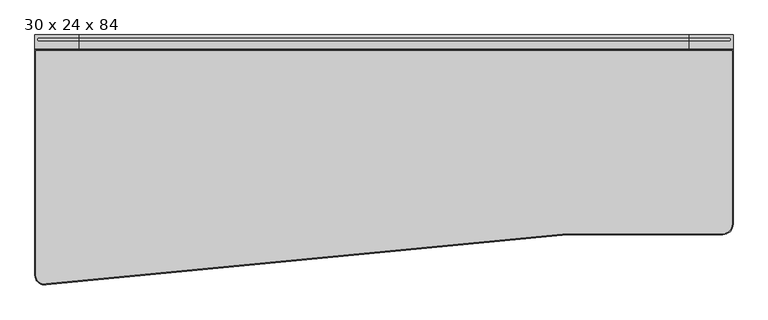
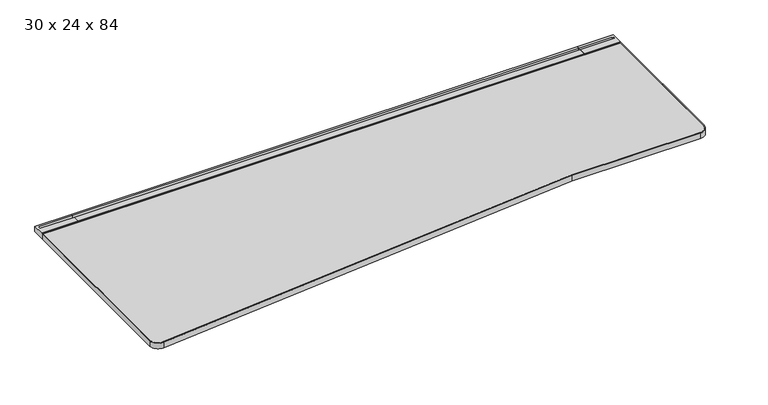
"""IFC4 building model written with IfcOpenShell, lengths in millimetres: furniture geometry, Steelcase - C Scape - Desking - Left Hand Transition : 30 x 24 x 84."""

from ifc_helpers import new_model, si_unit, point, frame, frame_2d, origin, place, context, project, spatial, polyline, circle_curve, trimmed, segment, composite_curve, outline, extrude, faceted_brep, source, transform, mapped, element, save
from ifc_brep_helpers import plane_surface, cylinder_surface, revolved_surface, advanced_brep


def furniture_30_x_24_x_84_b591fa1f(model_context):
    return source(origin(), model_context, "Body", "SolidModel", [
        advanced_brep(
        [(134.6072876, -45.3135132, 703.3768), (134.6072876, -4.0331902, 703.3768), (134.6072876, -3.2278472, 705.1038636), (134.6072876, 0.0, 705.1038636), (134.6072876, 0.0, 725.932), (134.6072876, -8.5111084, 725.932), (134.6072876, -8.5111084, 713.486), (134.6072876, -19.3290527, 713.486), (134.6072876, -19.3290527, 725.932), (134.6072876, -42.7750923, 725.932), (134.6072876, -42.7750923, 722.4268341), (134.6072876, -45.3135132, 722.4268341), (1.5875, -45.3135132, 703.3768), (1.5875, -45.3135132, 722.4268341), (1.5875, -42.7750923, 722.4268341), (1.5875, -42.7750923, 725.932), (1.5875, 0.0, 725.932), (1.5875, 0.0, 705.1038636), (1.5875, -3.2278472, 705.1038636), (1.5875, -4.0331902, 703.3768), (13.3495728, -19.3290527, 725.932), (13.3495728, -8.5111084, 725.932), (13.3495728, -8.5111084, 713.486), (13.3495728, -19.3290527, 713.486)],
        [
            (0, 1),
            (1, 2),
            (2, 3),
            (3, 4),
            (4, 5),
            (5, 6),
            (6, 7),
            (7, 8),
            (8, 9),
            (9, 10),
            (10, 11),
            (11, 0),
            (12, 13),
            (13, 14),
            (14, 15),
            (15, 16),
            (16, 17),
            (17, 18),
            (18, 19),
            (19, 12),
            (0, 12),
            (19, 1),
            (18, 2),
            (17, 3),
            (16, 4),
            (15, 9),
            (8, 20),
            (20, 21, circle_curve(frame((13.3495728, -13.9200806, 725.932), z_axis=(0.0, 0.0, -1.0), x_axis=(1.0, 0.0, 0.0)), 5.4089722)),
            (21, 5),
            (14, 10),
            (13, 11),
            (6, 22),
            (22, 23, circle_curve(frame((13.3495728, -13.9200806, 713.486), z_axis=(0.0, 0.0, 1.0), x_axis=(1.0, 0.0, 0.0)), 5.4089722)),
            (23, 7),
            (21, 22),
            (20, 23),
        ],
        [
            plane_surface(frame((134.6072876, -45.3135132, 703.3768), z_axis=(1.0, 0.0, 0.0), x_axis=(0.0, 1.0, 0.0))),
            plane_surface(frame((1.5875, -45.3135132, 703.3768), z_axis=(-1.0, 0.0, 0.0), x_axis=(0.0, -1.0, 0.0))),
            plane_surface(frame((134.6072876, -45.3135132, 703.3768), z_axis=(0.0, 0.0, -1.0), x_axis=(-1.0, 0.0, 0.0))),
            plane_surface(frame((134.6072876, -4.0331902, 703.3768), z_axis=(0.0, 0.9063077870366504, -0.4226182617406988), x_axis=(-1.0, 0.0, 0.0))),
            plane_surface(frame((134.6072876, -3.2278472, 705.1038636), z_axis=(0.0, 0.0, -1.0), x_axis=(-1.0, 0.0, 0.0))),
            plane_surface(frame((134.6072876, 0.0, 705.1038636), z_axis=(0.0, 1.0, 0.0), x_axis=(-1.0, 0.0, 0.0))),
            plane_surface(frame((134.6072876, 0.0, 725.932), z_axis=(0.0, 0.0, 1.0), x_axis=(-1.0, 0.0, 0.0))),
            plane_surface(frame((134.6072876, -42.7750923, 725.932), z_axis=(0.0, -1.0, 0.0), x_axis=(-1.0, 0.0, 0.0))),
            plane_surface(frame((134.6072876, -42.7750923, 722.4268341), z_axis=(0.0, 0.0, 1.0), x_axis=(-1.0, 0.0, 0.0))),
            plane_surface(frame((134.6072876, -45.3135132, 722.4268341), z_axis=(0.0, -1.0, 0.0), x_axis=(-1.0, 0.0, 0.0))),
            plane_surface(frame((13.3495728, -8.5111084, 713.486), z_axis=(0.0, 0.0, 1.0), x_axis=(1.0, 0.0, 0.0))),
            plane_surface(frame((134.6072876, -8.5111084, 731.2180541), z_axis=(0.0, -1.0, 0.0), x_axis=(0.0, 0.0, -1.0))),
            revolved_surface(polyline([(18.758545, -13.9200806, 725.932), (18.758545, -13.9200806, 713.486)]), (13.3495728, -13.9200806, 713.486), (0.0, 0.0, 1.0)),
            plane_surface(frame((13.3495728, -19.3290527, 731.2180541), z_axis=(0.0, 1.0, 0.0), x_axis=(0.0, 0.0, -1.0))),
        ],
        [
            (0, [[1, 2, 3, 4, 5, 6, 7, 8, 9, 10, 11, 12]]),
            (1, [[13, 14, 15, 16, 17, 18, 19, 20]]),
            (2, [[-1, 21, -20, 22]]),
            (3, [[-2, -22, -19, 23]]),
            (4, [[-3, -23, -18, 24]]),
            (5, [[-4, -24, -17, 25]]),
            (6, [[-16, 26, -9, 27, 28, 29, -5, -25]]),
            (7, [[-10, -26, -15, 30]]),
            (8, [[-11, -30, -14, 31]]),
            (9, [[-12, -31, -13, -21]]),
            (10, [[32, 33, 34, -7]]),
            (11, [[-32, -6, -29, 35]]),
            (12, [[-33, -35, -28, 36]]),
            (13, [[-34, -36, -27, -8]]),
        ],
    ),
        faceted_brep([(20.6382632, -565.0752923, 700.7093833), (34.9133728, -565.0752923, 693.4200291), (116.3525879, -565.0752923, 693.4200291), (118.9731301, -565.0752923, 679.3263935), (134.6072876, -565.0752923, 679.3263935), (134.6072876, -565.0752923, 703.3768), (20.6382632, -565.0752923, 703.3768), (20.6382632, -4.0331902, 700.7093833), (20.6382632, -4.0331902, 703.3768), (134.6072876, -4.0331902, 703.3768), (134.6072876, -4.0331902, 629.3866), (128.2588347, -4.0331902, 629.3866), (116.3525879, -4.0331902, 693.4200291), (34.9133728, -4.0331902, 693.4200291), (128.2588347, -364.1172546, 629.3866), (121.1384051, -376.5599397, 667.6812472), (134.6072876, -364.1172546, 629.3866), (134.6072876, -376.5599397, 667.6812472)], [[[0, 1, 2, 3, 4, 5, 6]], [[7, 8, 9, 10, 11, 12, 13]], [[1, 0, 7, 13]], [[2, 1, 13, 12]], [[12, 11, 14, 15, 3, 2]], [[11, 10, 16, 14]], [[10, 9, 5, 4, 17, 16]], [[6, 5, 9, 8]], [[0, 6, 8, 7]], [[15, 17, 4, 3]], [[17, 15, 14, 16]]]),
        extrude(outline(composite_curve([segment(polyline([(-293.5216187, 657.3775839), (-559.0022133, 680.1371551)]), True, "CONTINUOUS"), segment(trimmed(circle_curve(frame_2d((-558.7581271, 682.9843154)), 2.8576039), [point((-559.0022133, 680.1371551))], [point((-561.5383043, 682.3236226))], False, "CARTESIAN"), True, "CONTINUOUS"), segment(polyline([(-561.5383043, 682.3236226), (-566.0887542, 701.4717905), (-557.8334441, 701.4717905), (-557.8334441, 703.3768), (-442.6683806, 703.3768), (-442.6683806, 696.3917953), (-318.2108611, 696.3917953), (-318.2108611, 703.3768), (-293.5216187, 703.3768), (-293.5216187, 657.3775839)]), True, "CONTINUOUS")], self_intersect=False)), frame((1030.224, 0.0, 0.0), z_axis=(1.0, 0.0, 0.0), x_axis=(0.0, 1.0, 0.0)), (0.0, 0.0, 1.0), 73.152),
        advanced_brep(
        [(1998.9927124, -45.3135132, 703.3768), (1998.9927124, -45.3135132, 722.4268341), (1998.9927124, -42.7750923, 722.4268341), (1998.9927124, -42.7750923, 725.932), (1998.9927124, -19.3290527, 725.932), (1998.9927124, -19.3290527, 713.486), (1998.9927124, -8.5111084, 713.486), (1998.9927124, -8.5111084, 725.932), (1998.9927124, 0.0, 725.932), (1998.9927124, 0.0, 705.1038636), (1998.9927124, -3.2278472, 705.1038636), (1998.9927124, -4.0331902, 703.3768), (2132.0125, -45.3135132, 703.3768), (2132.0125, -4.0331902, 703.3768), (2132.0125, -3.2278472, 705.1038636), (2132.0125, 0.0, 705.1038636), (2132.0125, 0.0, 725.932), (2132.0125, -42.7750923, 725.932), (2132.0125, -42.7750923, 722.4268341), (2132.0125, -45.3135132, 722.4268341), (2120.2504272, -8.5111084, 725.932), (2120.2504272, -19.3290527, 725.932), (2120.2504272, -19.3290527, 713.486), (2120.2504272, -8.5111084, 713.486)],
        [
            (0, 1),
            (1, 2),
            (2, 3),
            (3, 4),
            (4, 5),
            (5, 6),
            (6, 7),
            (7, 8),
            (8, 9),
            (9, 10),
            (10, 11),
            (11, 0),
            (12, 13),
            (13, 14),
            (14, 15),
            (15, 16),
            (16, 17),
            (17, 18),
            (18, 19),
            (19, 12),
            (11, 13),
            (12, 0),
            (10, 14),
            (9, 15),
            (8, 16),
            (7, 20),
            (20, 21, circle_curve(frame((2120.2504272, -13.9200806, 725.932), z_axis=(0.0, 0.0, -1.0), x_axis=(-1.0, 0.0, 0.0)), 5.4089722)),
            (21, 4),
            (3, 17),
            (2, 18),
            (1, 19),
            (5, 22),
            (22, 23, circle_curve(frame((2120.2504272, -13.9200806, 713.486), z_axis=(0.0, 0.0, 1.0), x_axis=(-1.0, 0.0, 0.0)), 5.4089722)),
            (23, 6),
            (23, 20),
            (22, 21),
        ],
        [
            plane_surface(frame((1998.9927124, -45.3135132, 703.3768), z_axis=(-1.0, 0.0, 0.0), x_axis=(0.0, 1.0, 0.0))),
            plane_surface(frame((2132.0125, -45.3135132, 703.3768), z_axis=(1.0, 0.0, 0.0), x_axis=(0.0, -1.0, 0.0))),
            plane_surface(frame((1998.9927124, -45.3135132, 703.3768), z_axis=(0.0, 0.0, -1.0), x_axis=(1.0, 0.0, 0.0))),
            plane_surface(frame((1998.9927124, -4.0331902, 703.3768), z_axis=(0.0, 0.9063077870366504, -0.4226182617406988), x_axis=(1.0, 0.0, 0.0))),
            plane_surface(frame((1998.9927124, -3.2278472, 705.1038636), z_axis=(0.0, 0.0, -1.0), x_axis=(1.0, 0.0, 0.0))),
            plane_surface(frame((1998.9927124, 0.0, 705.1038636), z_axis=(0.0, 1.0, 0.0), x_axis=(1.0, 0.0, 0.0))),
            plane_surface(frame((1998.9927124, 0.0, 725.932), z_axis=(0.0, 0.0, 1.0), x_axis=(1.0, 0.0, 0.0))),
            plane_surface(frame((1998.9927124, -42.7750923, 725.932), z_axis=(0.0, -1.0, 0.0), x_axis=(1.0, 0.0, 0.0))),
            plane_surface(frame((1998.9927124, -42.7750923, 722.4268341), z_axis=(0.0, 0.0, 1.0), x_axis=(1.0, 0.0, 0.0))),
            plane_surface(frame((1998.9927124, -45.3135132, 722.4268341), z_axis=(0.0, -1.0, 0.0), x_axis=(1.0, 0.0, 0.0))),
            plane_surface(frame((2120.2504272, -8.5111084, 713.486), z_axis=(0.0, 0.0, 1.0), x_axis=(-1.0, 0.0, 0.0))),
            plane_surface(frame((1998.9927124, -8.5111084, 731.2180541), z_axis=(0.0, -1.0, 0.0), x_axis=(0.0, 0.0, -1.0))),
            revolved_surface(polyline([(2114.841455, -13.9200806, 725.932), (2114.841455, -13.9200806, 713.486)]), (2120.2504272, -13.9200806, 713.486), (0.0, 0.0, 1.0)),
            plane_surface(frame((2120.2504272, -19.3290527, 731.2180541), z_axis=(0.0, 1.0, 0.0), x_axis=(0.0, 0.0, -1.0))),
        ],
        [
            (0, [[1, 2, 3, 4, 5, 6, 7, 8, 9, 10, 11, 12]]),
            (1, [[13, 14, 15, 16, 17, 18, 19, 20]]),
            (2, [[21, -13, 22, -12]]),
            (3, [[23, -14, -21, -11]]),
            (4, [[24, -15, -23, -10]]),
            (5, [[25, -16, -24, -9]]),
            (6, [[-25, -8, 26, 27, 28, -4, 29, -17]]),
            (7, [[30, -18, -29, -3]]),
            (8, [[31, -19, -30, -2]]),
            (9, [[-22, -20, -31, -1]]),
            (10, [[-6, 32, 33, 34]]),
            (11, [[35, -26, -7, -34]]),
            (12, [[36, -27, -35, -33]]),
            (13, [[-5, -28, -36, -32]]),
        ],
    ),
        faceted_brep([(2112.9617368, -565.0752923, 700.7093833), (2112.9617368, -565.0752923, 703.3768), (1998.9927124, -565.0752923, 703.3768), (1998.9927124, -565.0752923, 679.3263935), (2014.6268699, -565.0752923, 679.3263935), (2017.2474121, -565.0752923, 693.4200291), (2098.6866272, -565.0752923, 693.4200291), (2112.9617368, -4.0331902, 700.7093833), (2098.6866272, -4.0331902, 693.4200291), (2017.2474121, -4.0331902, 693.4200291), (2005.3411653, -4.0331902, 629.3866), (1998.9927124, -4.0331902, 629.3866), (1998.9927124, -4.0331902, 703.3768), (2112.9617368, -4.0331902, 703.3768), (2012.4615949, -376.5599397, 667.6812472), (2005.3411653, -364.1172546, 629.3866), (1998.9927124, -364.1172546, 629.3866), (1998.9927124, -376.5599397, 667.6812472)], [[[0, 1, 2, 3, 4, 5, 6]], [[7, 8, 9, 10, 11, 12, 13]], [[6, 8, 7, 0]], [[5, 9, 8, 6]], [[9, 5, 4, 14, 15, 10]], [[10, 15, 16, 11]], [[11, 16, 17, 3, 2, 12]], [[1, 13, 12, 2]], [[0, 7, 13, 1]], [[14, 4, 3, 17]], [[17, 16, 15, 14]]]),
        extrude(outline(polyline([(-8.5111084, 725.932), (0.0, 725.932), (0.0, 705.1038636), (-3.2278472, 705.1038636), (-4.0331902, 703.3768), (-45.3135132, 703.3768), (-45.3135132, 722.4268341), (-42.7750923, 722.4268341), (-42.7750923, 725.932), (-19.3290527, 725.932), (-19.3290527, 713.486), (-8.5111084, 713.486), (-8.5111084, 725.932)])), frame((134.6072876, 0.0, 0.0), z_axis=(1.0, 0.0, 0.0), x_axis=(0.0, 1.0, 0.0)), (0.0, 0.0, 1.0), 1864.3854248),
        extrude(outline(polyline([(1998.9927124, -4.0331902), (1998.9927124, -293.5216187), (134.6072876, -293.5216187), (134.6072876, -4.0331902), (1998.9927124, -4.0331902)])), frame((0.0, 0.0, 629.3866), z_axis=(0.0, 0.0, 1.0), x_axis=(1.0, 0.0, 0.0)), (0.0, 0.0, 1.0), 73.9902),
        advanced_brep(
        [(2128.9645, -48.3660689, 723.9), (4.6355, -48.3660689, 723.9), (4.6355, -734.677348, 723.9), (33.9511745, -759.7737122, 723.9), (1625.5997595, -606.5490234, 723.9), (2100.2625, -606.5490234, 723.9), (2128.9615234, -577.85, 723.9), (2128.9645, -48.3660689, 703.3768), (2128.9645, -577.85, 703.3768), (2100.2625, -606.5490234, 703.3768), (1625.5997595, -606.5490234, 703.3768), (33.9511745, -759.7737122, 703.3768), (4.6355, -734.677348, 703.3768), (4.6355, -48.3660689, 703.3768)],
        [
            (0, 1),
            (1, 2),
            (2, 3, circle_curve(frame((30.0355, -734.677348, 723.9), z_axis=(0.0, 0.0, 1.0), x_axis=(-1.0, 0.0, 0.0)), 25.4)),
            (3, 4),
            (4, 5),
            (5, 6, circle_curve(frame((2100.2625, -577.85, 723.9), z_axis=(0.0, 0.0, 1.0), x_axis=(-1.0, 0.0, 0.0)), 28.6990234)),
            (6, 0),
            (7, 8),
            (8, 9, circle_curve(frame((2100.2625, -577.85, 703.3768), z_axis=(0.0, 0.0, -1.0), x_axis=(-1.0, 0.0, 0.0)), 28.6990234)),
            (9, 10),
            (10, 11),
            (11, 12, circle_curve(frame((30.0355, -734.677348, 703.3768), z_axis=(0.0, 0.0, -1.0), x_axis=(-1.0, 0.0, 0.0)), 25.4)),
            (12, 13),
            (13, 7),
            (0, 7),
            (13, 1),
            (12, 2),
            (11, 3),
            (10, 4),
            (9, 5),
            (8, 6),
        ],
        [
            plane_surface(frame((4.6355, -48.3660689, 723.9), z_axis=(0.0, 0.0, 1.0), x_axis=(-1.0, 0.0, 0.0))),
            plane_surface(frame((4.6355, -48.3660689, 703.3768), z_axis=(0.0, 0.0, -1.0), x_axis=(1.0, 0.0, 0.0))),
            plane_surface(frame((2128.9645, -48.3660689, 723.9), z_axis=(0.0, 1.0, 0.0), x_axis=(0.0, 0.0, -1.0))),
            plane_surface(frame((4.6355, -48.3660689, 723.9), z_axis=(-1.0, 0.0, 0.0), x_axis=(0.0, 0.0, -1.0))),
            cylinder_surface(frame((30.0355, -734.677348, 703.3768), z_axis=(0.0, 0.0, 1.0), x_axis=(-1.0, 0.0, 0.0)), 25.4),
            plane_surface(frame((33.9511745, -759.7737122, 723.9), z_axis=(0.0958249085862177, -0.9953982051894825, 0.0), x_axis=(0.0, 0.0, -1.0))),
            plane_surface(frame((1625.5997595, -606.5490234, 723.9), z_axis=(0.0, -1.0, 0.0), x_axis=(0.0, 0.0, -1.0))),
            cylinder_surface(frame((2100.2625, -577.85, 703.3768), z_axis=(0.0, 0.0, 1.0), x_axis=(-1.0, 0.0, 0.0)), 28.6990234),
            plane_surface(frame((2128.9645, -577.85, 723.9), z_axis=(1.0, 0.0, 0.0), x_axis=(0.0, 0.0, -1.0))),
        ],
        [
            (0, [[1, 2, 3, 4, 5, 6, 7]]),
            (1, [[8, 9, 10, 11, 12, 13, 14]]),
            (2, [[-1, 15, -14, 16]]),
            (3, [[-2, -16, -13, 17]]),
            (4, [[-3, -17, -12, 18]]),
            (5, [[-4, -18, -11, 19]]),
            (6, [[-5, -19, -10, 20]]),
            (7, [[-6, -20, -9, 21]]),
            (8, [[-7, -21, -8, -15]]),
        ],
    ),
        extrude(outline(composite_curve([segment(polyline([(1625.6, -609.6), (35.7608132, -762.5423763)]), True, "CONTINUOUS"), segment(trimmed(circle_curve(frame_2d((31.1963073, -733.2875177)), 29.6088073), [point((35.7608132, -762.5423763))], [point((1.5875, -733.2875177))], False, "CARTESIAN"), True, "CONTINUOUS"), segment(polyline([(1.5875, -733.2875177), (1.5875, -45.3150923), (2132.0125, -45.3150923), (2132.0125, -577.85)]), True, "CONTINUOUS"), segment(trimmed(circle_curve(frame_2d((2100.2625, -577.85)), 31.75), [point((2132.0125, -577.85))], [point((2100.2625, -609.6))], False, "CARTESIAN"), True, "CONTINUOUS"), segment(polyline([(2100.2625, -609.6), (1625.6, -609.6)]), True, "CONTINUOUS")], self_intersect=False), holes=[composite_curve([segment(polyline([(4.6384766, -48.3660689), (4.6384766, -733.2875177)]), True, "CONTINUOUS"), segment(trimmed(circle_curve(frame_2d((31.1963073, -733.2875177)), 26.5578307), [point((4.6384766, -733.2875177))], [point((35.3768026, -759.5142566))], True, "CARTESIAN"), True, "CONTINUOUS"), segment(polyline([(35.3768026, -759.5142566), (1625.4535861, -606.5490234), (2100.2625, -606.5490234)]), True, "CONTINUOUS"), segment(trimmed(circle_curve(frame_2d((2100.2625, -577.85)), 28.6990234), [point((2100.2625, -606.5490234))], [point((2128.9615234, -577.85))], True, "CARTESIAN"), True, "CONTINUOUS"), segment(polyline([(2128.9615234, -577.85), (2128.9615234, -48.3660689), (4.6384766, -48.3660689)]), True, "CONTINUOUS")], self_intersect=False)]), frame((0.0, 0.0, 703.3768), z_axis=(0.0, 0.0, 1.0), x_axis=(1.0, 0.0, 0.0)), (0.0, 0.0, 1.0), 20.5232),
    ])


if __name__ == "__main__":
    model = new_model("IFC4")
    model_context = context("Model", 3, world=origin())
    ifc_project = project(units=[si_unit("LENGTHUNIT", "METRE", prefix="MILLI")], contexts=[model_context])
    site = spatial("IfcSite", under=ifc_project)
    building = spatial("IfcBuilding", under=site)
    placement = place(None, origin())
    furniture_30_x_24_x_84_shape = furniture_30_x_24_x_84_b591fa1f(model_context)
    element("IfcFurniture", 1, ObjectType="Steelcase - C Scape - Desking - Left Hand Transition : 30 x 24 x 84", at=placement, inside=building, context=model_context, shape_type="MappedRepresentation", body=[
        mapped(furniture_30_x_24_x_84_shape, transform((0.0, 0.0, 0.0), x_axis=(1.0, 0.0, 0.0), y_axis=(0.0, 1.0, 0.0), z_axis=(0.0, 0.0, 1.0))),
    ])
    save(model, "model.ifc")
